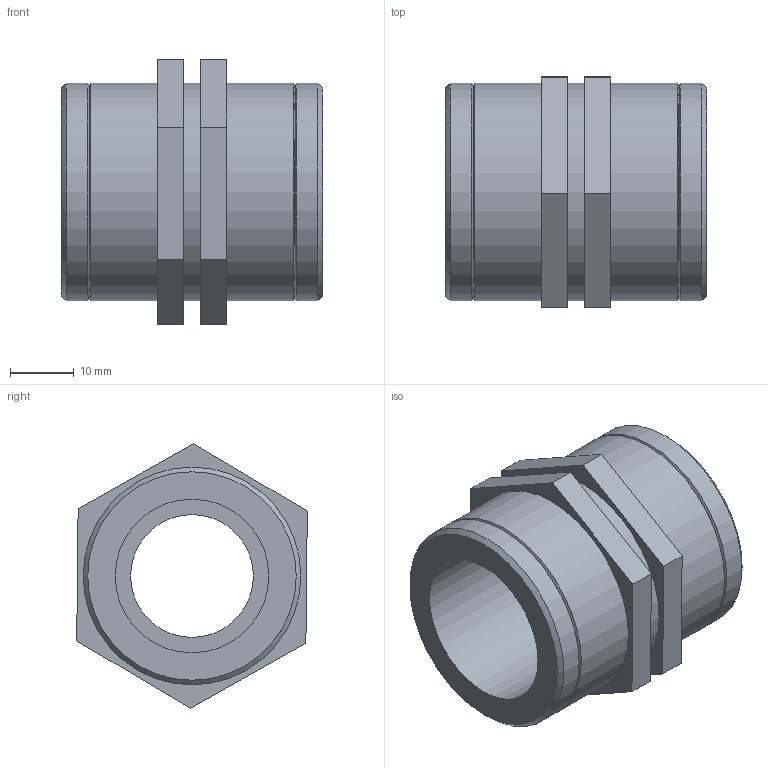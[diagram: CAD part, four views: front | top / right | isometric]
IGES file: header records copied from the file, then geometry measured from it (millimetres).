
Global section: file name: 050107007_0501070070A.ipt; native system: Autodesk Inventor 2015; preprocessor: unknown; author: KIM; date: 20170618.093102; units: millimetre
Bounding box: 41 x 36.22 x 41.57 mm (x, y, z)
Volume: 21016.7 mm3; surface area: 9712 mm2
Topology: 1 solids, 1 shells, 34 faces, 76 edges, 50 vertices
Faces by surface type: plane 20, cone 6, cylinder 5, revolution 3
Full cylindrical faces by diameter (mm): 34.2 x5
